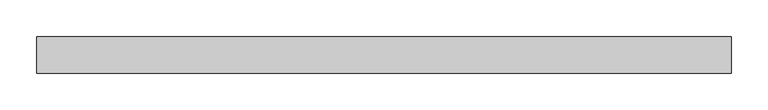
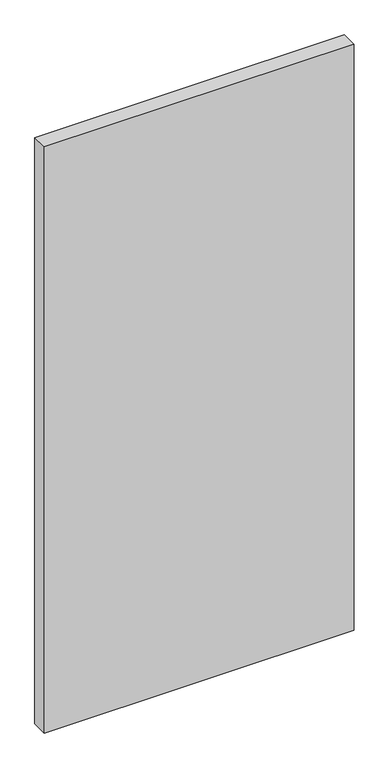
"""IFC4 building model written with IfcOpenShell, lengths in millimetres: plate geometry, Системная панель : Стекло(50мм)."""

from ifc_helpers import new_model, si_unit, origin, origin_with_axes, place, context, project, spatial, polyline, outline, extrude, source, transform, mapped, element, save


def plate_903b2bb5(model_context):
    return source(origin(), model_context, "Body", "SweptSolid", [
        extrude(outline(polyline([(475.0, -25.0), (-475.0, -25.0), (-475.0, 25.0), (475.0, 25.0), (475.0, -25.0)])), origin_with_axes(), (0.0, 0.0, 1.0), 1900.0),
    ])


if __name__ == "__main__":
    model = new_model("IFC4")
    model_context = context("Model", 3, world=origin())
    ifc_project = project(units=[si_unit("LENGTHUNIT", "METRE", prefix="MILLI")], contexts=[model_context])
    site = spatial("IfcSite", under=ifc_project)
    building = spatial("IfcBuilding", under=site)
    placement = place(None, origin())
    plate_shape = plate_903b2bb5(model_context)
    element("IfcPlate", 1, ObjectType="Системная панель : Стекло(50мм)", at=placement, inside=building, context=model_context, shape_type="MappedRepresentation", body=[
        mapped(plate_shape, transform((0.0, 0.0, 0.0), x_axis=(1.0, 0.0, 0.0), y_axis=(0.0, 1.0, 0.0), z_axis=(0.0, 0.0, 1.0))),
    ])
    save(model, "model.ifc")
